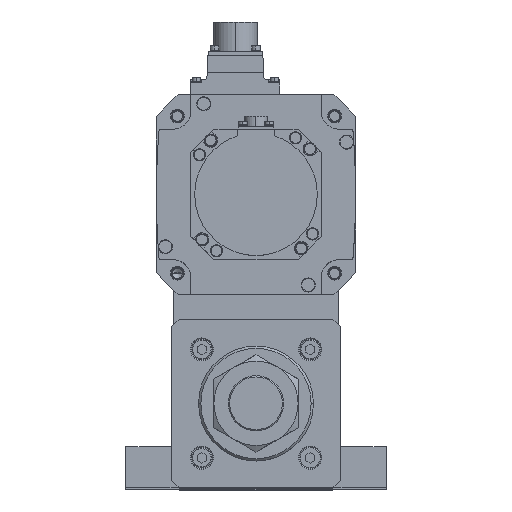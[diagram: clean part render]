
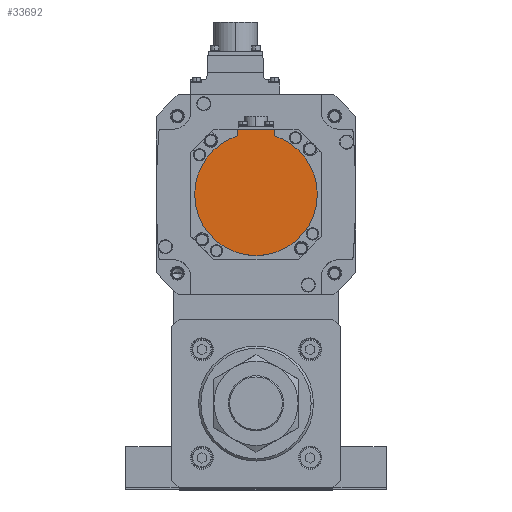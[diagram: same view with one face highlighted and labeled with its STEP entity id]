
A CAD part, top view. The second image highlights one B-rep face of the part: STEP entity #33692.
In plain terms, the highlighted planar face has unit normal (0, 0, 1) as drawn and (0, 0, -1) by its records, which use the part's own axes.
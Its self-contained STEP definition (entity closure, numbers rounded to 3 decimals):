
#9 = ORIENTED_EDGE ( 'NONE', *, *, #34128, .T. ) ;
#1164 = VERTEX_POINT ( 'NONE', #6548 ) ;
#1466 = CIRCLE ( 'NONE', #28380, 40. ) ;
#1683 = VECTOR ( 'NONE', #34267, 1000. ) ;
#3713 = FACE_OUTER_BOUND ( 'NONE', #26012, .T. ) ;
#4267 = EDGE_CURVE ( 'NONE', #29730, #23493, #5483, .T. ) ;
#4849 = CARTESIAN_POINT ( 'NONE',  ( 12., -1.249, -132.5 ) ) ;
#5483 = LINE ( 'NONE', #13838, #30684 ) ;
#6303 = LINE ( 'NONE', #4849, #1683 ) ;
#6548 = CARTESIAN_POINT ( 'NONE',  ( -12., -38.158, -132.5 ) ) ;
#7760 = CARTESIAN_POINT ( 'NONE',  ( 12., -42.5, -132.5 ) ) ;
#7980 = DIRECTION ( 'NONE',  ( 1., 0., 0. ) ) ;
#8357 = ORIENTED_EDGE ( 'NONE', *, *, #27434, .F. ) ;
#9948 = VERTEX_POINT ( 'NONE', #14123 ) ;
#10021 = CIRCLE ( 'NONE', #11093, 40. ) ;
#11093 = AXIS2_PLACEMENT_3D ( 'NONE', #27059, #32966, #27296 ) ;
#12974 = CARTESIAN_POINT ( 'NONE',  ( -40., 0., -132.5 ) ) ;
#13838 = CARTESIAN_POINT ( 'NONE',  ( 0., -42.5, -132.5 ) ) ;
#14123 = CARTESIAN_POINT ( 'NONE',  ( 12., -38.158, -132.5 ) ) ;
#14313 = ORIENTED_EDGE ( 'NONE', *, *, #32705, .F. ) ;
#15216 = CARTESIAN_POINT ( 'NONE',  ( -12., -40.329, -132.5 ) ) ;
#16242 = DIRECTION ( 'NONE',  ( 0., 0., 1. ) ) ;
#16616 = DIRECTION ( 'NONE',  ( -1., 0., 0. ) ) ;
#17194 = EDGE_CURVE ( 'NONE', #29730, #9948, #6303, .T. ) ;
#17647 = DIRECTION ( 'NONE',  ( 0., 1., 0. ) ) ;
#18074 = DIRECTION ( 'NONE',  ( 1., 0., 0. ) ) ;
#18964 = CARTESIAN_POINT ( 'NONE',  ( -12., -42.5, -132.5 ) ) ;
#20922 = ORIENTED_EDGE ( 'NONE', *, *, #4267, .T. ) ;
#22714 = CIRCLE ( 'NONE', #33051, 40. ) ;
#22734 = VERTEX_POINT ( 'NONE', #12974 ) ;
#23493 = VERTEX_POINT ( 'NONE', #18964 ) ;
#24728 = VECTOR ( 'NONE', #17647, 1000. ) ;
#26012 = EDGE_LOOP ( 'NONE', ( #9, #14313, #30786, #8357, #26028, #20922 ) ) ;
#26028 = ORIENTED_EDGE ( 'NONE', *, *, #17194, .F. ) ;
#27059 = CARTESIAN_POINT ( 'NONE',  ( 0., 0., -132.5 ) ) ;
#27249 = LINE ( 'NONE', #15216, #24728 ) ;
#27269 = CARTESIAN_POINT ( 'NONE',  ( 0., 0., -132.5 ) ) ;
#27296 = DIRECTION ( 'NONE',  ( 1., 0., 0. ) ) ;
#27434 = EDGE_CURVE ( 'NONE', #9948, #28350, #10021, .T. ) ;
#28350 = VERTEX_POINT ( 'NONE', #32065 ) ;
#28380 = AXIS2_PLACEMENT_3D ( 'NONE', #27269, #16242, #32584 ) ;
#28822 = EDGE_CURVE ( 'NONE', #28350, #22734, #1466, .T. ) ;
#28877 = DIRECTION ( 'NONE',  ( 0., 0., 1. ) ) ;
#29468 = AXIS2_PLACEMENT_3D ( 'NONE', #31368, #28877, #18074 ) ;
#29730 = VERTEX_POINT ( 'NONE', #7760 ) ;
#30684 = VECTOR ( 'NONE', #16616, 1000. ) ;
#30786 = ORIENTED_EDGE ( 'NONE', *, *, #28822, .F. ) ;
#31368 = CARTESIAN_POINT ( 'NONE',  ( 0., -1.249, -132.5 ) ) ;
#32032 = CARTESIAN_POINT ( 'NONE',  ( 0., 0., -132.5 ) ) ;
#32065 = CARTESIAN_POINT ( 'NONE',  ( 40., 0., -132.5 ) ) ;
#32145 = DIRECTION ( 'NONE',  ( 0., 0., 1. ) ) ;
#32584 = DIRECTION ( 'NONE',  ( 1., 0., 0. ) ) ;
#32705 = EDGE_CURVE ( 'NONE', #22734, #1164, #22714, .T. ) ;
#32966 = DIRECTION ( 'NONE',  ( 0., 0., 1. ) ) ;
#33051 = AXIS2_PLACEMENT_3D ( 'NONE', #32032, #32145, #7980 ) ;
#33692 = ADVANCED_FACE ( 'NONE', ( #3713 ), #33977, .F. ) ;
#33977 = PLANE ( 'NONE',  #29468 ) ;
#34128 = EDGE_CURVE ( 'NONE', #23493, #1164, #27249, .T. ) ;
#34267 = DIRECTION ( 'NONE',  ( 0., 1., 0. ) ) ;
